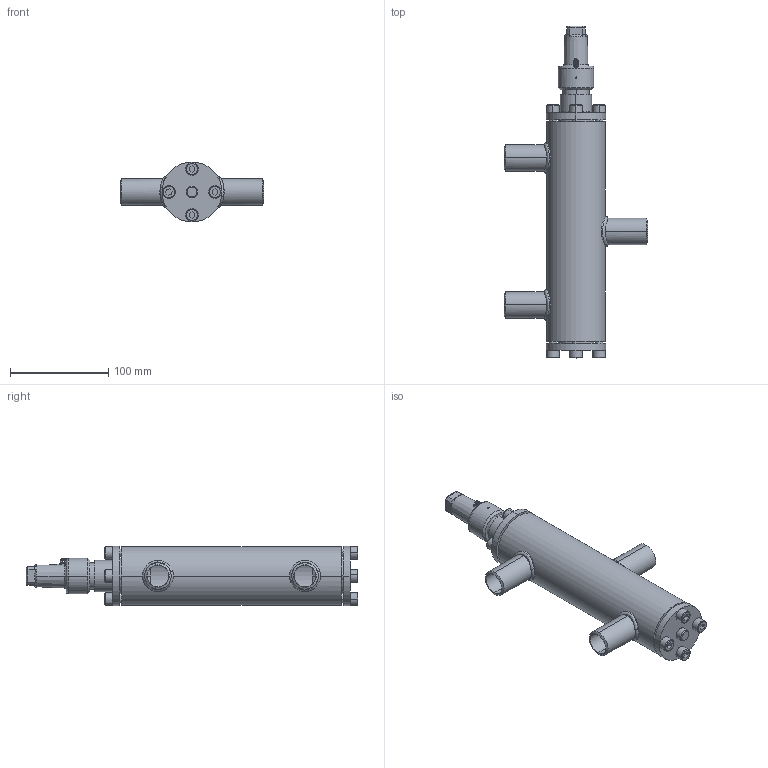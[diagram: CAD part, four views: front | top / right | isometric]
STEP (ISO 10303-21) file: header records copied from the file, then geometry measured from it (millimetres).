
FILE_DESCRIPTION (( 'STEP AP214' ), '1' );
FILE_NAME ('WVB23000D11-DN020_R1_PS40.STEP', '2010-09-08T08:08:35', ( 'Eckhard Grams' ), ( 'AWP Kälte Klima Armaturen GmbH' ), 'SwSTEP 2.0', 'SolidWorks 2002296', '' );
FILE_SCHEMA (( 'AUTOMOTIVE_DESIGN' ));
Length unit declared in the file: millimetre
Products named in the file (12): WVB23000D11-DN020_R1_PS40; AVB16300K10_Deck+Schr-DN10-20_Standard; Zylinderschraube-DIN912_M 8x  16; Deckel16300K10-DN10-20_Standard; Geh,kpl24000E11_DN20_R1_PS40_Standard; Gehäuse24000E11-DN20_R1_PS40_Standard; Rohrstutzen-24000E11-DN20_R1_Standard; Schw-24000E11-DN20_Standard; Kappe 96300E10_DN6-20 (M27x2)_Standard; WVB-R23000K10_Deck+Schr-DN10-20_Standard; Deckel24000E10-DN10-20_Standard; Zylinderschraube-DIN912_M 8x  25
Assembly tree (21 placements, depth 3):
  WVB23000D11-DN020_R1_PS40
    Geh,kpl24000E11_DN20_R1_PS40_Standard
      Schw-24000E11-DN20_Standard  x3
      Rohrstutzen-24000E11-DN20_R1_Standard  x3
      Gehäuse24000E11-DN20_R1_PS40_Standard
    WVB-R23000K10_Deck+Schr-DN10-20_Standard
      Deckel24000E10-DN10-20_Standard
      Zylinderschraube-DIN912_M 8x  25  x4
    AVB16300K10_Deck+Schr-DN10-20_Standard
      Zylinderschraube-DIN912_M 8x  16  x4
      Deckel16300K10-DN10-20_Standard
    Kappe 96300E10_DN6-20 (M27x2)_Standard
Bounding box: 146 x 338.5 x 61 mm (x, y, z)
Volume: 573695.6 mm3; surface area: 137630.1 mm2
Topology: 18 solids, 18 shells, 403 faces, 917 edges, 577 vertices
Faces by surface type: cylinder 170, plane 129, cone 41, torus 41, bspline 22
Entity records: 22044 total; most frequent: CARTESIAN_POINT 15039, DIRECTION 1315, ORIENTED_EDGE 1198, EDGE_CURVE 599, AXIS2_PLACEMENT_3D 556, VERTEX_POINT 377, EDGE_LOOP 308, CIRCLE 286
